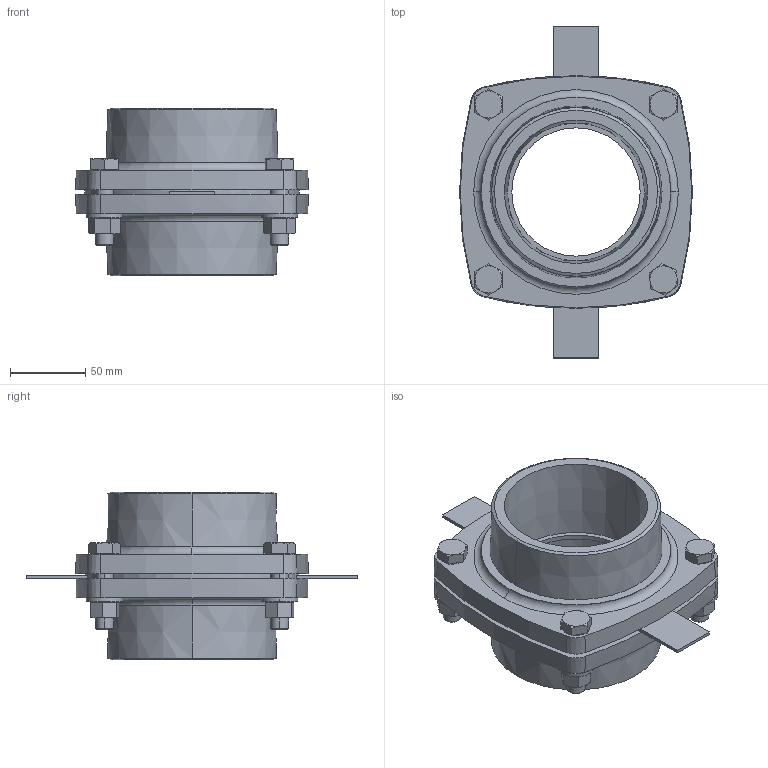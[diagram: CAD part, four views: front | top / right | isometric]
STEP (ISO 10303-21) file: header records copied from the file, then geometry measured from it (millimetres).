
FILE_DESCRIPTION (( 'STEP AP214' ), '1' );
FILE_NAME ('KP_F16-110MM.STEP', '2014-01-20T15:50:22', ( 'robinj' ), ( 'Microsoft' ), 'SwSTEP 2.0', 'SolidWorks 2014', '' );
FILE_SCHEMA (( 'AUTOMOTIVE_DESIGN' ));
Length unit declared in the file: millimetre
Products named in the file (1): KP_F16-110MM
Bounding box: 154.3 x 220 x 111 mm (x, y, z)
Volume: 737187.1 mm3; surface area: 136376.3 mm2
Topology: 1 solids, 1 shells, 349 faces, 768 edges, 452 vertices
Faces by surface type: plane 149, cone 120, cylinder 68, torus 12
Entity records: 11127 total; most frequent: CARTESIAN_POINT 2130, DIRECTION 1736, ORIENTED_EDGE 1536, EDGE_CURVE 768, AXIS2_PLACEMENT_3D 714, VERTEX_POINT 452, EDGE_LOOP 390, CIRCLE 364
